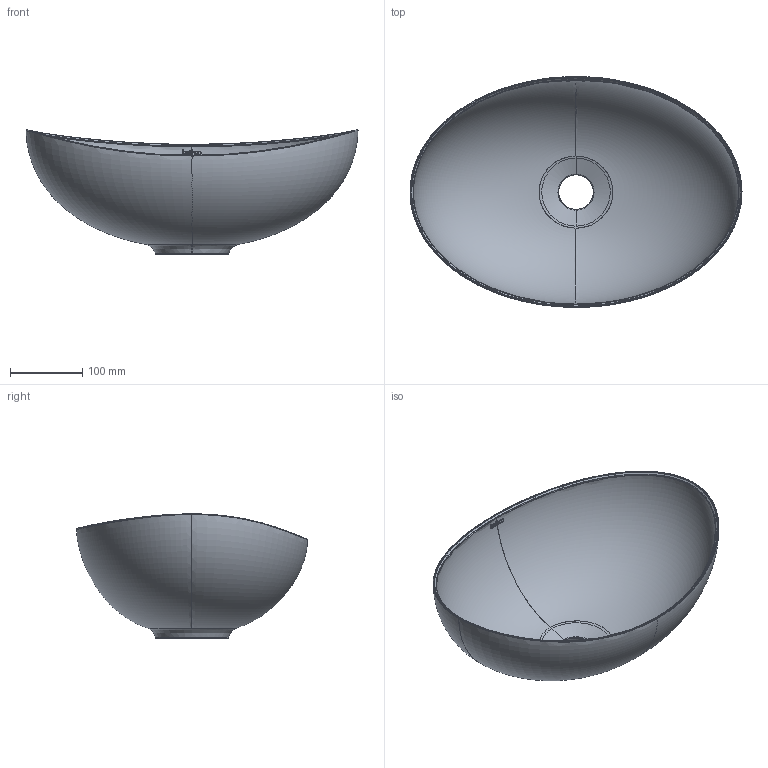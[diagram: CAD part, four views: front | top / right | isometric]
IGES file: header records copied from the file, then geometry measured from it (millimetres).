
Global section: file name: C:\Users\User\Desktop\Lavabos 3D\Begursa\Begursa.igs; native system: Rhinoceros ( Feb 26 2015 ); preprocessor: Trout Lake IGES 012 Feb 26 2015; date: 191022.044904; units: millimetre
Bounding box: 460.19 x 320.06 x 172.32 mm (x, y, z)
Surface area: 398707.4 mm2 (no closed solid volume)
Topology: 0 solids, 0 shells, 341 faces, 3356 edges, 3349 vertices
Faces by surface type: bspline 341
